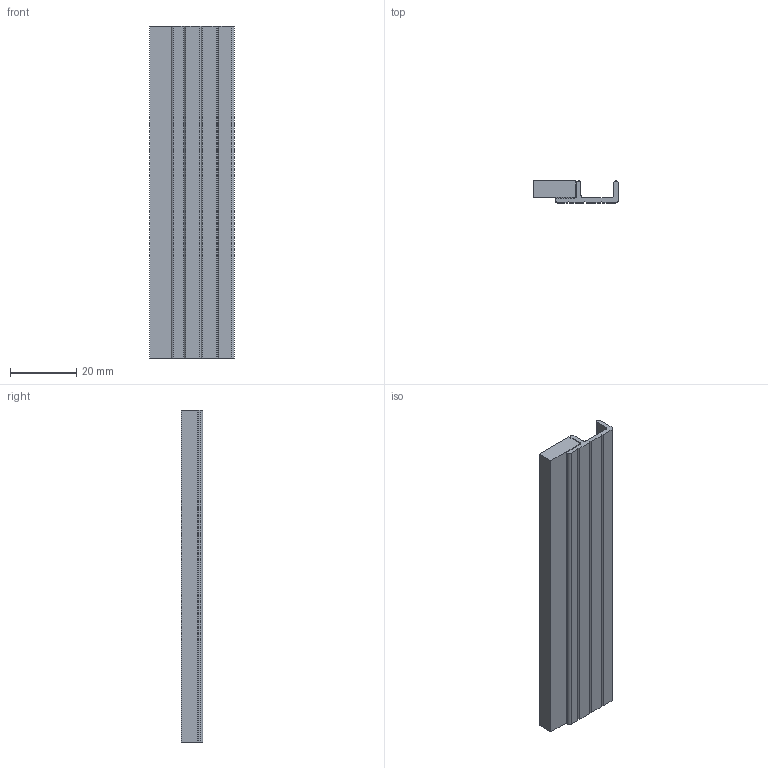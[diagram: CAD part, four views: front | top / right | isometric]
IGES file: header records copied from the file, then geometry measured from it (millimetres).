
Global section: file name: No Iges File Name specified; native system: Autodesk Inventor 2012; preprocessor: AutoDesk Inventor Iges Exporter R2012; author: anna.b; date: 20131121.121025; units: millimetre
Bounding box: 25.4 x 6.5 x 100 mm (x, y, z)
Volume: 10207 mm3; surface area: 9892.4 mm2
Topology: 2 solids, 2 shells, 95 faces, 273 edges, 182 vertices
Faces by surface type: plane 88, cylinder 4, revolution 3
